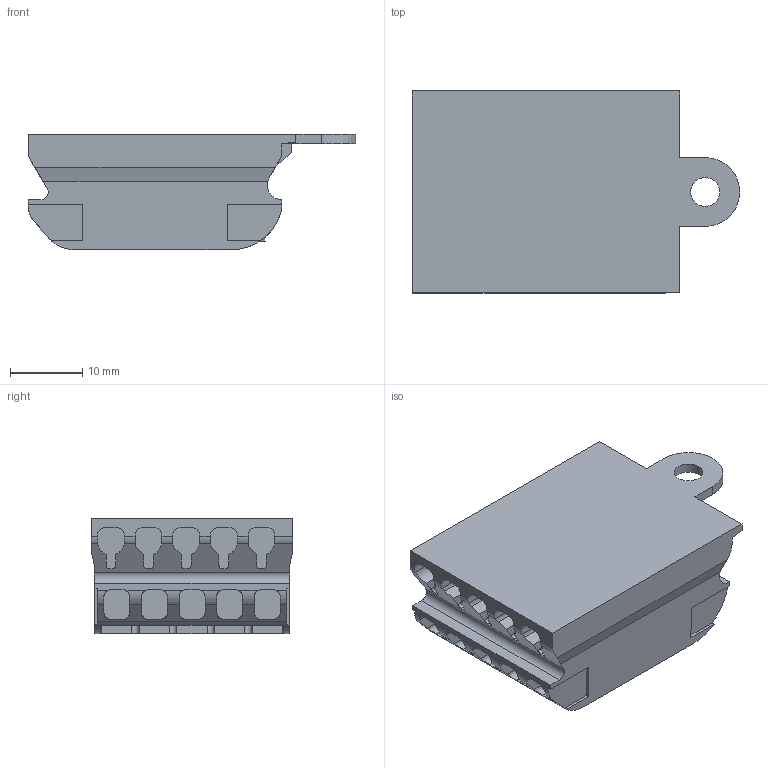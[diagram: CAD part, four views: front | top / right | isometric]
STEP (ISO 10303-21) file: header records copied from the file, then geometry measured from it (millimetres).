
FILE_DESCRIPTION(/* description */ ('Unknown'),/* implementation_level */ '2;1');
FILE_NAME(/* name */ '024-30U-03',/* time_stamp */ '2024-09-02T16:03:22+02:00',/* author */ ('Unknown'),/* organization */ ('Unknown'),/* preprocessor_version */ 'ST-DEVELOPER v16.7',/* originating_system */ 'Solid Edge',/* authorisation */ 'Unknown');
FILE_SCHEMA (('AUTOMOTIVE_DESIGN {1 0 10303 214 3 1 1}'));
Length unit declared in the file: millimetre
Products named in the file (3): 024-30U-03; 024-30K-02; 024-30U-02
Assembly tree (2 placements, depth 2):
  024-30U-03
    024-30K-02
    024-30U-02
Bounding box: 45.2 x 27.9 x 16.01 mm (x, y, z)
Volume: 11805.1 mm3; surface area: 6691.3 mm2
Topology: 17 solids, 17 shells, 601 faces, 1660 edges, 1104 vertices
Faces by surface type: plane 428, cylinder 169, bspline 4
Full cylindrical faces by diameter (mm): 2.134 x5, 4 x1, 4.63 x1, 5.21 x1
Entity records: 19371 total; most frequent: CARTESIAN_POINT 3717, ORIENTED_EDGE 3304, DIRECTION 3110, EDGE_CURVE 1652, LINE 1232, VECTOR 1232, VERTEX_POINT 1104, AXIS2_PLACEMENT_3D 939
